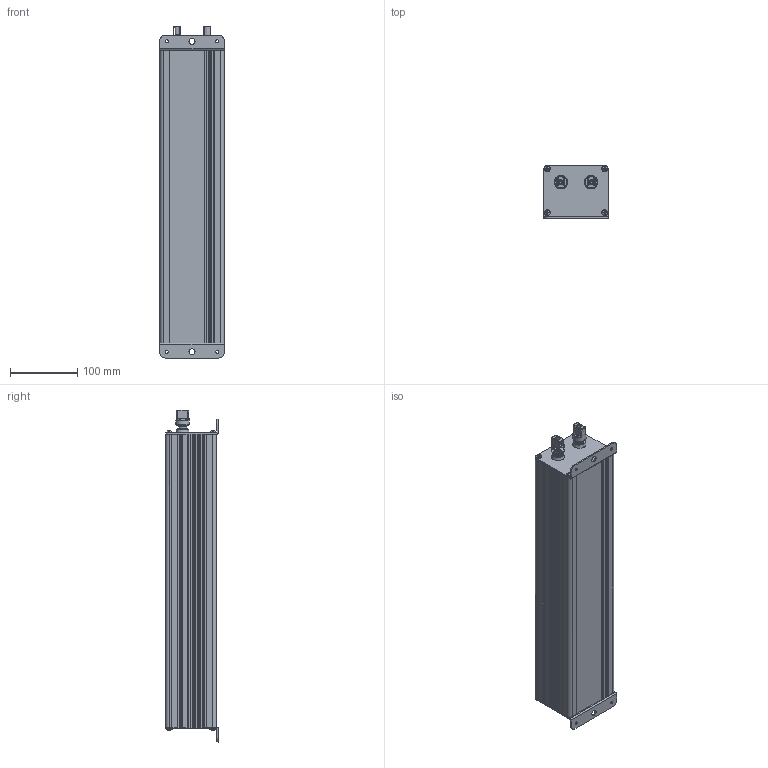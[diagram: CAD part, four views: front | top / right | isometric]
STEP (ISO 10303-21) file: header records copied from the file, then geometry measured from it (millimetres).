
FILE_DESCRIPTION(/* description */ ('','CAx-IF Rec.Pracs.---Representation and Presentation of Product Manufacturing Information (PMI)---4.0---2014-10-13'),/* implementation_level */ '2;1');
FILE_NAME(/* name */ 'H:\04_배터리_전기종\저부하용 배터리 케이스_3D\LB-11V90AH\LB-11V90AH.stp',/* time_stamp */ '2022-12-08T15:51:39+09:00',/* author */ ('jjang'),/* organization */ (''),/* preprocessor_version */ 'ST-DEVELOPER v18.1',/* originating_system */ 'Autodesk Inventor 2021',/* authorisation */ '');
FILE_SCHEMA (('AP242_MANAGED_MODEL_BASED_3D_ENGINEERING_MIM_LF { 1 0 10303 442 1 1 4 }'));
Length unit declared in the file: inch
Products named in the file (1): LB-11V90AH_Shrinkwrap_1
Bounding box: 95.5 x 78.2 x 492.7 mm (x, y, z)
Volume: 459679.9 mm3; surface area: 371699 mm2
Topology: 1 solids, 1 shells, 518 faces, 1478 edges, 970 vertices
Faces by surface type: plane 300, cylinder 166, bspline 24, torus 14, sphere 8, cone 6
Full cylindrical faces by diameter (mm): 3.8 x8, 4.4 x4, 4.5 x8, 5.4 x2, 8.8 x8, 9 x2, 12 x2, 13.861 x2
Entity records: 18932 total; most frequent: CARTESIAN_POINT 4936, ORIENTED_EDGE 2956, DIRECTION 2804, EDGE_CURVE 1478, AXIS2_PLACEMENT_3D 994, VERTEX_POINT 970, LINE 816, VECTOR 816
